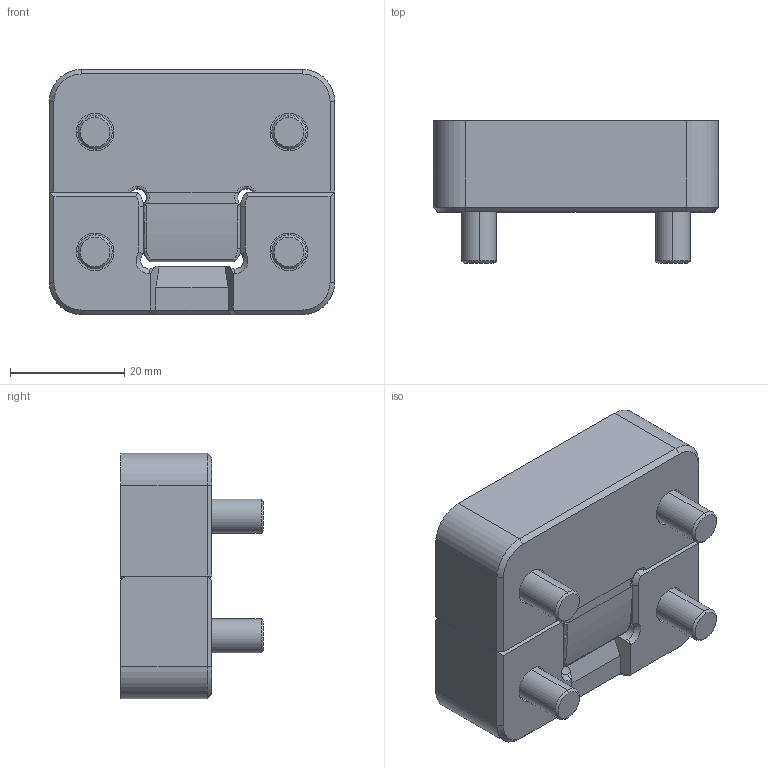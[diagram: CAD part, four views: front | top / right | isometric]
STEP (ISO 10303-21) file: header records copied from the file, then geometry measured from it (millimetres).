
FILE_DESCRIPTION (( 'STEP AP214' ), '1' );
FILE_NAME ('SLM16X50Z.STEP', '2012-06-04T13:55:20', ( 'Progressive Components' ), ( 'Progressive Components' ), 'SwSTEP 2.0', 'SolidWorks 2010', '' );
FILE_SCHEMA (( 'AUTOMOTIVE_DESIGN' ));
Length unit declared in the file: millimetre
Products named in the file (4): SLM16X50Z MALE; SLM16X50Z FEMALE; M6_X_18_SHCS; SLM16X50Z
Assembly tree (6 placements, depth 2):
  SLM16X50Z
    SLM16X50Z MALE
    SLM16X50Z FEMALE
    M6_X_18_SHCS  x4
Bounding box: 50 x 25 x 43 mm (x, y, z)
Volume: 32846 mm3; surface area: 13639.1 mm2
Topology: 6 solids, 6 shells, 331 faces, 723 edges, 460 vertices
Faces by surface type: cylinder 141, plane 134, cone 38, torus 14, bspline 4
Entity records: 8037 total; most frequent: CARTESIAN_POINT 1685, DIRECTION 1397, ORIENTED_EDGE 1194, EDGE_CURVE 597, AXIS2_PLACEMENT_3D 568, VERTEX_POINT 382, EDGE_LOOP 329, CIRCLE 292
